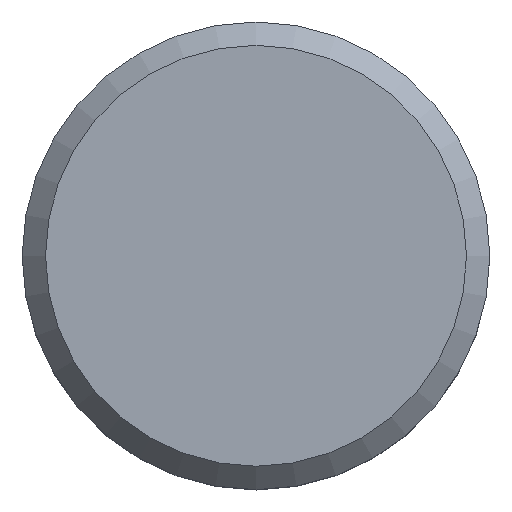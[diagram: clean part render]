
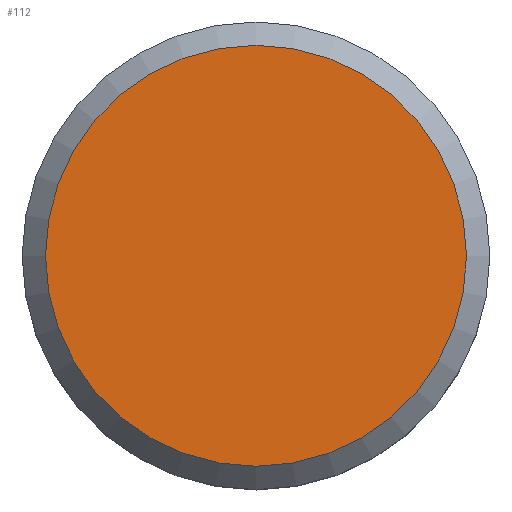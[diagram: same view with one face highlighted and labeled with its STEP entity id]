
A CAD part, top view. The second image highlights one B-rep face of the part: STEP entity #112.
In plain terms, the highlighted planar face has unit normal (0, 0, 1).
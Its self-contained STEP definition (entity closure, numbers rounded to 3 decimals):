
#15=PLANE('',#133);
#35=FACE_OUTER_BOUND('',#52,.T.);
#52=EDGE_LOOP('',(#97));
#63=CIRCLE('',#132,4.5);
#72=VERTEX_POINT('',#199);
#81=EDGE_CURVE('',#72,#72,#63,.T.);
#97=ORIENTED_EDGE('',*,*,#81,.F.);
#112=ADVANCED_FACE('',(#35),#15,.F.);
#132=AXIS2_PLACEMENT_3D('',#200,#167,#168);
#133=AXIS2_PLACEMENT_3D('',#201,#169,#170);
#167=DIRECTION('center_axis',(0.,0.,-1.));
#168=DIRECTION('ref_axis',(-1.,0.,0.));
#169=DIRECTION('center_axis',(0.,0.,-1.));
#170=DIRECTION('ref_axis',(-1.,0.,0.));
#199=CARTESIAN_POINT('',(4.5,0.,5.));
#200=CARTESIAN_POINT('Origin',(0.,0.,5.));
#201=CARTESIAN_POINT('Origin',(0.,0.,5.));
